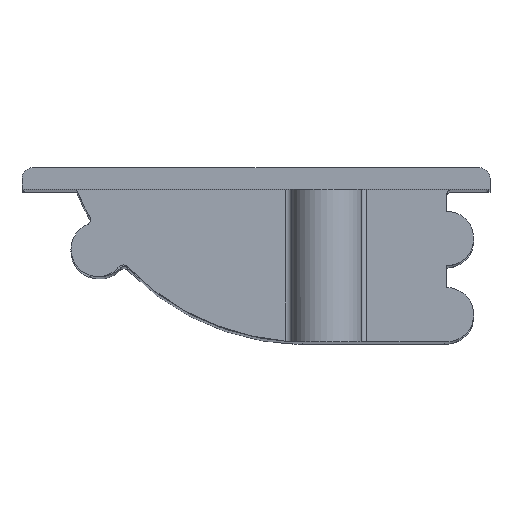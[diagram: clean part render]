
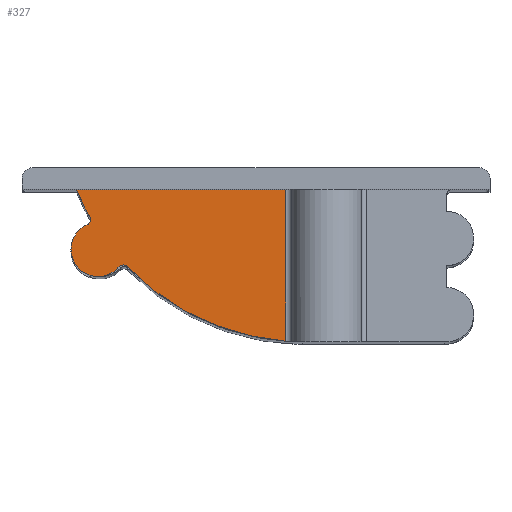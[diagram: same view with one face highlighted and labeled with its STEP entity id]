
A CAD part, top view. The second image highlights one B-rep face of the part: STEP entity #327.
In plain terms, the highlighted planar face has unit normal (0, 0, 1).
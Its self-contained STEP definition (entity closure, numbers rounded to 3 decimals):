
#83 = VERTEX_POINT ( 'NONE', #1863 ) ;
#86 = LINE ( 'NONE', #2312, #3347 ) ;
#95 = CARTESIAN_POINT ( 'NONE',  ( -10.677, 36.167, 2. ) ) ;
#140 = VERTEX_POINT ( 'NONE', #3398 ) ;
#144 = CARTESIAN_POINT ( 'NONE',  ( -5.177, 38.167, 2. ) ) ;
#159 = DIRECTION ( 'NONE',  ( -1., 0., 0. ) ) ;
#232 = LINE ( 'NONE', #3563, #3231 ) ;
#302 = CARTESIAN_POINT ( 'NONE',  ( 3.573, 17.167, 2. ) ) ;
#313 = ORIENTED_EDGE ( 'NONE', *, *, #1913, .F. ) ;
#327 = ADVANCED_FACE ( 'NONE', ( #1255 ), #754, .F. ) ;
#360 = CARTESIAN_POINT ( 'NONE',  ( -12.603, 33.867, 2. ) ) ;
#378 = AXIS2_PLACEMENT_3D ( 'NONE', #95, #2261, #2866 ) ;
#396 = CIRCLE ( 'NONE', #847, 2.5 ) ;
#403 = DIRECTION ( 'NONE',  ( 0., -1., 0. ) ) ;
#447 = CIRCLE ( 'NONE', #508, 22.75 ) ;
#508 = AXIS2_PLACEMENT_3D ( 'NONE', #302, #2854, #1709 ) ;
#543 = EDGE_CURVE ( 'NONE', #1153, #3189, #3489, .T. ) ;
#732 = CARTESIAN_POINT ( 'NONE',  ( 38.755, 38.667, 2. ) ) ;
#739 = AXIS2_PLACEMENT_3D ( 'NONE', #360, #1956, #2519 ) ;
#754 = PLANE ( 'NONE',  #2796 ) ;
#755 = CARTESIAN_POINT ( 'NONE',  ( -12.256, 33.508, 2. ) ) ;
#829 = VERTEX_POINT ( 'NONE', #144 ) ;
#847 = AXIS2_PLACEMENT_3D ( 'NONE', #1959, #3072, #880 ) ;
#880 = DIRECTION ( 'NONE',  ( -1., 0., 0. ) ) ;
#963 = DIRECTION ( 'NONE',  ( 0., 0., -1. ) ) ;
#1017 = CIRCLE ( 'NONE', #3508, 0.5 ) ;
#1112 = DIRECTION ( 'NONE',  ( -1., 0., 0. ) ) ;
#1116 = DIRECTION ( 'NONE',  ( -1., 0., 0. ) ) ;
#1153 = VERTEX_POINT ( 'NONE', #1979 ) ;
#1199 = AXIS2_PLACEMENT_3D ( 'NONE', #2142, #1599, #2722 ) ;
#1200 = ORIENTED_EDGE ( 'NONE', *, *, #1620, .F. ) ;
#1255 = FACE_OUTER_BOUND ( 'NONE', #3206, .T. ) ;
#1333 = VERTEX_POINT ( 'NONE', #3216 ) ;
#1344 = ORIENTED_EDGE ( 'NONE', *, *, #1471, .F. ) ;
#1445 = CARTESIAN_POINT ( 'NONE',  ( -10.691, 38.667, 2. ) ) ;
#1461 = ORIENTED_EDGE ( 'NONE', *, *, #2793, .F. ) ;
#1471 = EDGE_CURVE ( 'NONE', #83, #829, #1999, .T. ) ;
#1481 = ORIENTED_EDGE ( 'NONE', *, *, #543, .F. ) ;
#1533 = CARTESIAN_POINT ( 'NONE',  ( 38.755, 38.667, 2. ) ) ;
#1546 = VECTOR ( 'NONE', #159, 1000. ) ;
#1575 = EDGE_CURVE ( 'NONE', #140, #1719, #447, .T. ) ;
#1599 = DIRECTION ( 'NONE',  ( 0., 0., -1. ) ) ;
#1600 = EDGE_CURVE ( 'NONE', #3189, #83, #1017, .T. ) ;
#1620 = EDGE_CURVE ( 'NONE', #1333, #2750, #396, .T. ) ;
#1709 = DIRECTION ( 'NONE',  ( -1., 0., 0. ) ) ;
#1719 = VERTEX_POINT ( 'NONE', #755 ) ;
#1754 = CARTESIAN_POINT ( 'NONE',  ( -7.93, 37.372, 2. ) ) ;
#1863 = CARTESIAN_POINT ( 'NONE',  ( -7.683, 36.938, 2. ) ) ;
#1913 = EDGE_CURVE ( 'NONE', #1719, #1333, #3226, .T. ) ;
#1956 = DIRECTION ( 'NONE',  ( 0., 0., 1. ) ) ;
#1959 = CARTESIAN_POINT ( 'NONE',  ( -10.677, 36.167, 2. ) ) ;
#1979 = CARTESIAN_POINT ( 'NONE',  ( -10.664, 38.667, 2. ) ) ;
#1999 = CIRCLE ( 'NONE', #1199, 22.75 ) ;
#2142 = CARTESIAN_POINT ( 'NONE',  ( 3.573, 17.167, 2. ) ) ;
#2261 = DIRECTION ( 'NONE',  ( 0., 0., -1. ) ) ;
#2312 = CARTESIAN_POINT ( 'NONE',  ( -5.177, 38.667, 2. ) ) ;
#2519 = DIRECTION ( 'NONE',  ( -1., 0., 0. ) ) ;
#2525 = EDGE_CURVE ( 'NONE', #1153, #2750, #2636, .T. ) ;
#2580 = EDGE_CURVE ( 'NONE', #3140, #140, #232, .T. ) ;
#2636 = LINE ( 'NONE', #1533, #1546 ) ;
#2658 = ORIENTED_EDGE ( 'NONE', *, *, #2525, .T. ) ;
#2682 = ORIENTED_EDGE ( 'NONE', *, *, #2580, .F. ) ;
#2722 = DIRECTION ( 'NONE',  ( -1., 0., 0. ) ) ;
#2750 = VERTEX_POINT ( 'NONE', #1445 ) ;
#2793 = EDGE_CURVE ( 'NONE', #829, #3140, #86, .T. ) ;
#2795 = DIRECTION ( 'NONE',  ( 0., 0., 1. ) ) ;
#2796 = AXIS2_PLACEMENT_3D ( 'NONE', #732, #963, #2976 ) ;
#2806 = ORIENTED_EDGE ( 'NONE', *, *, #1575, .F. ) ;
#2854 = DIRECTION ( 'NONE',  ( 0., 0., -1. ) ) ;
#2866 = DIRECTION ( 'NONE',  ( -1., 0., 0. ) ) ;
#2976 = DIRECTION ( 'NONE',  ( -1., 0., 0. ) ) ;
#3072 = DIRECTION ( 'NONE',  ( 0., 0., -1. ) ) ;
#3127 = CARTESIAN_POINT ( 'NONE',  ( -5.177, 18.92, 2. ) ) ;
#3140 = VERTEX_POINT ( 'NONE', #3127 ) ;
#3189 = VERTEX_POINT ( 'NONE', #3252 ) ;
#3206 = EDGE_LOOP ( 'NONE', ( #313, #2806, #2682, #1461, #1344, #3491, #1481, #2658, #1200 ) ) ;
#3216 = CARTESIAN_POINT ( 'NONE',  ( -12.282, 34.25, 2. ) ) ;
#3226 = CIRCLE ( 'NONE', #739, 0.5 ) ;
#3231 = VECTOR ( 'NONE', #1116, 1000. ) ;
#3252 = CARTESIAN_POINT ( 'NONE',  ( -8.388, 37.171, 2. ) ) ;
#3347 = VECTOR ( 'NONE', #403, 1000. ) ;
#3398 = CARTESIAN_POINT ( 'NONE',  ( -19.11, 18.92, 2. ) ) ;
#3489 = CIRCLE ( 'NONE', #378, 2.5 ) ;
#3491 = ORIENTED_EDGE ( 'NONE', *, *, #1600, .F. ) ;
#3508 = AXIS2_PLACEMENT_3D ( 'NONE', #1754, #2795, #1112 ) ;
#3563 = CARTESIAN_POINT ( 'NONE',  ( 38.755, 18.92, 2. ) ) ;
